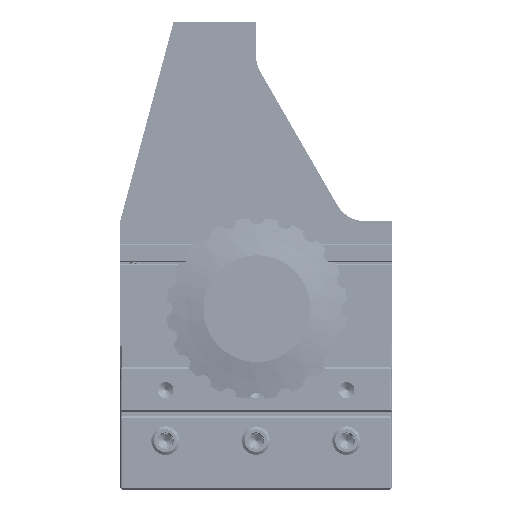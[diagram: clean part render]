
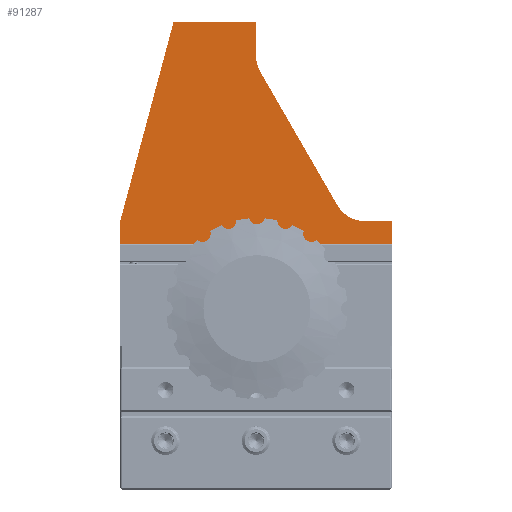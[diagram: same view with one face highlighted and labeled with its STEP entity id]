
A CAD part, left-side view. The second image highlights one B-rep face of the part: STEP entity #91287.
In plain terms, the highlighted planar face has unit normal (-1, 0, 0).
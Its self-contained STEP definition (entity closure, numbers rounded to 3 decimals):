
#81445=DIRECTION('',(0.,1.,0.));
#81446=VECTOR('',#81445,76.2);
#81447=CARTESIAN_POINT('',(-76.2,-87.3,28.575));
#81448=LINE('',#81447,#81446);
#81619=DIRECTION('',(0.,0.259,-0.966));
#81620=VECTOR('',#81619,57.851);
#81621=CARTESIAN_POINT('',(-76.2,-26.073,90.805));
#81622=LINE('',#81621,#81620);
#81623=CARTESIAN_POINT('',(-76.2,-58.09,81.301));
#81624=DIRECTION('',(1.,0.,0.));
#81625=DIRECTION('',(0.,0.866,-0.5));
#81626=AXIS2_PLACEMENT_3D('',#81623,#81624,#81625);
#81628=DIRECTION('',(0.,0.5,0.866));
#81629=VECTOR('',#81628,43.285);
#81630=CARTESIAN_POINT('',(-76.2,-72.034,39.37));
#81631=LINE('',#81630,#81629);
#81632=CARTESIAN_POINT('',(-76.2,-79.733,43.815));
#81633=DIRECTION('',(1.,0.,0.));
#81634=DIRECTION('',(0.,0.,-1.));
#81635=AXIS2_PLACEMENT_3D('',#81632,#81633,#81634);
#81637=DIRECTION('',(0.,1.,0.));
#81638=VECTOR('',#81637,7.567);
#81639=CARTESIAN_POINT('',(-76.2,-87.3,34.925));
#81640=LINE('',#81639,#81638);
#81641=DIRECTION('',(0.,0.,1.));
#81642=VECTOR('',#81641,6.35);
#81643=CARTESIAN_POINT('',(-76.2,-87.3,28.575));
#81644=LINE('',#81643,#81642);
#81657=DIRECTION('',(0.,0.,1.));
#81658=VECTOR('',#81657,6.35);
#81659=CARTESIAN_POINT('',(-76.2,-11.1,28.575));
#81660=LINE('',#81659,#81658);
#81876=DIRECTION('',(0.,-1.,0.));
#81877=VECTOR('',#81876,23.127);
#81878=CARTESIAN_POINT('',(-76.2,-26.073,90.805));
#81879=LINE('',#81878,#81877);
#81896=DIRECTION('',(0.,0.,-1.));
#81897=VECTOR('',#81896,9.504);
#81898=CARTESIAN_POINT('',(-76.2,-49.2,90.805));
#81899=LINE('',#81898,#81897);
#88914=CARTESIAN_POINT('',(-76.2,-11.1,34.925));
#88916=VERTEX_POINT('',#88914);
#88940=CARTESIAN_POINT('',(-76.2,-49.2,90.805));
#88941=CARTESIAN_POINT('',(-76.2,-49.2,81.301));
#88942=VERTEX_POINT('',#88940);
#88943=VERTEX_POINT('',#88941);
#88960=CARTESIAN_POINT('',(-76.2,-11.1,28.575));
#88962=VERTEX_POINT('',#88960);
#88980=CARTESIAN_POINT('',(-76.2,-79.733,34.925));
#88982=VERTEX_POINT('',#88980);
#89038=CARTESIAN_POINT('',(-76.2,-72.034,39.37));
#89039=VERTEX_POINT('',#89038);
#89046=CARTESIAN_POINT('',(-76.2,-26.073,90.805));
#89047=VERTEX_POINT('',#89046);
#89052=CARTESIAN_POINT('',(-76.2,-87.3,28.575));
#89053=VERTEX_POINT('',#89052);
#89059=CARTESIAN_POINT('',(-76.2,-87.3,34.925));
#89060=VERTEX_POINT('',#89059);
#89109=CARTESIAN_POINT('',(-76.2,-50.391,76.856));
#89110=VERTEX_POINT('',#89109);
#91263=CARTESIAN_POINT('',(-76.2,-11.1,34.925));
#91264=DIRECTION('',(1.,0.,0.));
#91265=DIRECTION('',(0.,0.,1.));
#91266=AXIS2_PLACEMENT_3D('',#91263,#91264,#91265);
#91267=PLANE('',#91266);
#91268=ORIENTED_EDGE('',*,*,#91038,.T.);
#91270=ORIENTED_EDGE('',*,*,#91269,.T.);
#91272=ORIENTED_EDGE('',*,*,#91271,.F.);
#91274=ORIENTED_EDGE('',*,*,#91273,.T.);
#91276=ORIENTED_EDGE('',*,*,#91275,.T.);
#91278=ORIENTED_EDGE('',*,*,#91277,.F.);
#91280=ORIENTED_EDGE('',*,*,#91279,.F.);
#91282=ORIENTED_EDGE('',*,*,#91281,.F.);
#91283=ORIENTED_EDGE('',*,*,#91215,.F.);
#91284=ORIENTED_EDGE('',*,*,#91257,.F.);
#91285=EDGE_LOOP('',(#91268,#91270,#91272,#91274,#91276,#91278,#91280,#91282,
#91283,#91284));
#91286=FACE_OUTER_BOUND('',#91285,.F.);
#91287=ADVANCED_FACE('',(#91286),#91267,.F.);
#81627=CIRCLE('',#81626,8.89);
#81636=CIRCLE('',#81635,8.89);
#91038=EDGE_CURVE('',#89053,#88962,#81448,.T.);
#91215=EDGE_CURVE('',#89060,#88982,#81640,.T.);
#91257=EDGE_CURVE('',#89053,#89060,#81644,.T.);
#91269=EDGE_CURVE('',#88962,#88916,#81660,.T.);
#91271=EDGE_CURVE('',#89047,#88916,#81622,.T.);
#91273=EDGE_CURVE('',#89047,#88942,#81879,.T.);
#91275=EDGE_CURVE('',#88942,#88943,#81899,.T.);
#91277=EDGE_CURVE('',#89110,#88943,#81627,.T.);
#91279=EDGE_CURVE('',#89039,#89110,#81631,.T.);
#91281=EDGE_CURVE('',#88982,#89039,#81636,.T.);
